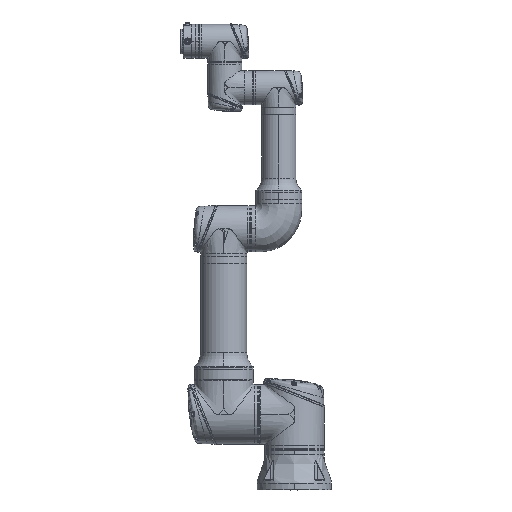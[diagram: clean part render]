
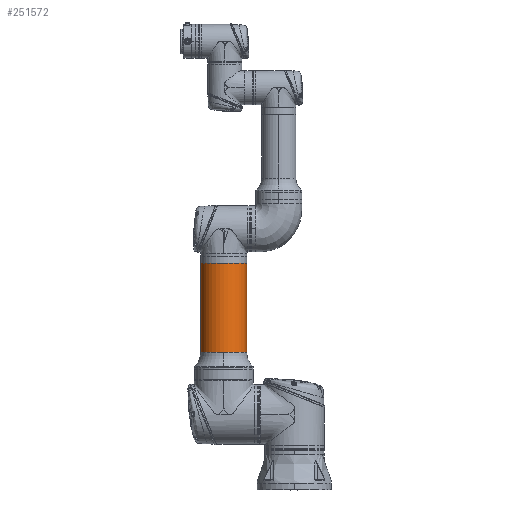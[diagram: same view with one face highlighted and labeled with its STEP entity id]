
A CAD part, top view. The second image highlights one B-rep face of the part: STEP entity #251572.
In plain terms, the highlighted cylindrical face has radius 59 mm (diameter 118 mm), a partial arc.
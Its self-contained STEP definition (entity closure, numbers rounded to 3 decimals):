
#2825 = FACE_OUTER_BOUND ( 'NONE', #334916, .T. ) ;
#22715 = CARTESIAN_POINT ( 'NONE',  ( 386.1, 0., -59. ) ) ;
#30652 = CYLINDRICAL_SURFACE ( 'NONE', #302965, 59. ) ;
#34439 = ORIENTED_EDGE ( 'NONE', *, *, #56609, .T. ) ;
#37563 = DIRECTION ( 'NONE',  ( 1., 0., 0. ) ) ;
#39987 = DIRECTION ( 'NONE',  ( 0., 0., -1. ) ) ;
#46225 = CARTESIAN_POINT ( 'NONE',  ( 562.7, 0., 59. ) ) ;
#48933 = EDGE_CURVE ( 'NONE', #443640, #392186, #365512, .T. ) ;
#56609 = EDGE_CURVE ( 'NONE', #154347, #239020, #445051, .T. ) ;
#59120 = DIRECTION ( 'NONE',  ( 1., 0., 0. ) ) ;
#66805 = EDGE_CURVE ( 'NONE', #443640, #274472, #85671, .T. ) ;
#72144 = ORIENTED_EDGE ( 'NONE', *, *, #48933, .F. ) ;
#72442 = CARTESIAN_POINT ( 'NONE',  ( 158.463, 0., 0. ) ) ;
#85671 = CIRCLE ( 'NONE', #400740, 59. ) ;
#114671 = DIRECTION ( 'NONE',  ( 0., 1., 0. ) ) ;
#124497 = EDGE_CURVE ( 'NONE', #392186, #239020, #224501, .T. ) ;
#125857 = VECTOR ( 'NONE', #377959, 1000. ) ;
#141047 = DIRECTION ( 'NONE',  ( 0., 1., 0. ) ) ;
#149692 = DIRECTION ( 'NONE',  ( 1., 0., 0. ) ) ;
#154347 = VERTEX_POINT ( 'NONE', #244563 ) ;
#197976 = ORIENTED_EDGE ( 'NONE', *, *, #353782, .T. ) ;
#207738 = CARTESIAN_POINT ( 'NONE',  ( 386.1, 0., 0. ) ) ;
#224501 = CIRCLE ( 'NONE', #411261, 59. ) ;
#237891 = ORIENTED_EDGE ( 'NONE', *, *, #124497, .F. ) ;
#239020 = VERTEX_POINT ( 'NONE', #413212 ) ;
#243714 = CARTESIAN_POINT ( 'NONE',  ( 562.7, 0., -59. ) ) ;
#244563 = CARTESIAN_POINT ( 'NONE',  ( 158.463, 0., 59. ) ) ;
#249807 = CARTESIAN_POINT ( 'NONE',  ( 562.7, 0., 0. ) ) ;
#251572 = ADVANCED_FACE ( 'NONE', ( #2825 ), #30652, .T. ) ;
#259172 = VECTOR ( 'NONE', #59120, 1000. ) ;
#274472 = VERTEX_POINT ( 'NONE', #395554 ) ;
#279661 = DIRECTION ( 'NONE',  ( 1., 0., 0. ) ) ;
#280364 = AXIS2_PLACEMENT_3D ( 'NONE', #397412, #37563, #141047 ) ;
#302165 = ORIENTED_EDGE ( 'NONE', *, *, #66805, .T. ) ;
#302965 = AXIS2_PLACEMENT_3D ( 'NONE', #249807, #149692, #39987 ) ;
#314107 = DIRECTION ( 'NONE',  ( 0., 0., -1. ) ) ;
#324318 = DIRECTION ( 'NONE',  ( 1., 0., 0. ) ) ;
#334916 = EDGE_LOOP ( 'NONE', ( #302165, #197976, #34439, #237891, #72144 ) ) ;
#353782 = EDGE_CURVE ( 'NONE', #274472, #154347, #417141, .T. ) ;
#365512 = LINE ( 'NONE', #243714, #259172 ) ;
#377959 = DIRECTION ( 'NONE',  ( 1., 0., 0. ) ) ;
#392186 = VERTEX_POINT ( 'NONE', #22715 ) ;
#395554 = CARTESIAN_POINT ( 'NONE',  ( 158.463, 59., 0. ) ) ;
#397412 = CARTESIAN_POINT ( 'NONE',  ( 158.463, 0., 0. ) ) ;
#400740 = AXIS2_PLACEMENT_3D ( 'NONE', #72442, #324318, #114671 ) ;
#411261 = AXIS2_PLACEMENT_3D ( 'NONE', #207738, #279661, #314107 ) ;
#413212 = CARTESIAN_POINT ( 'NONE',  ( 386.1, 0., 59. ) ) ;
#417141 = CIRCLE ( 'NONE', #280364, 59. ) ;
#434467 = CARTESIAN_POINT ( 'NONE',  ( 158.463, 0., -59. ) ) ;
#443640 = VERTEX_POINT ( 'NONE', #434467 ) ;
#445051 = LINE ( 'NONE', #46225, #125857 ) ;
